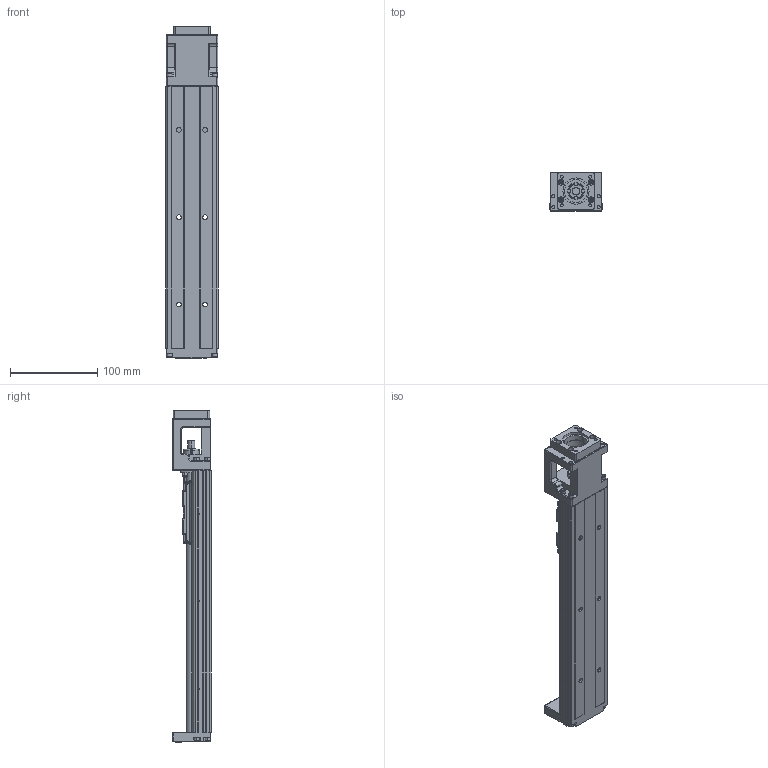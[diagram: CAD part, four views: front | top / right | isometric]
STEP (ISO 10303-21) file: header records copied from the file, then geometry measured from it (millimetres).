
FILE_DESCRIPTION (( 'STEP AP214' ), '1' );
FILE_NAME ('7.0116 KT6010C-300A1-F1.STEP', '2026-03-17T11:15:30', ( '' ), ( '' ), 'SwSTEP 2.0', 'SolidWorks 2025', '' );
FILE_SCHEMA (( 'AUTOMOTIVE_DESIGN' ));
Length unit declared in the file: millimetre
Products named in the file (4): KT60-K0_300; KT60-A1; KT-60-F1 Delta 100W motor plate; 7.0116 KT6010C-300A1-F1
Assembly tree (3 placements, depth 2):
  7.0116 KT6010C-300A1-F1
    KT60-K0_300
    KT60-A1
    KT-60-F1 Delta 100W motor plate
Bounding box: 60 x 44.5 x 380.2 mm (x, y, z)
Volume: 399285.5 mm3; surface area: 134786.7 mm2
Topology: 22 solids, 22 shells, 1378 faces, 3634 edges, 2328 vertices
Faces by surface type: plane 683, cylinder 501, cone 100, torus 62, bspline 17, sphere 15
Entity records: 60461 total; most frequent: CARTESIAN_POINT 12002, DIRECTION 7300, ORIENTED_EDGE 7166, EDGE_CURVE 3583, AXIS2_PLACEMENT_3D 2561, VERTEX_POINT 2328, VECTOR 2178, LINE 2178
